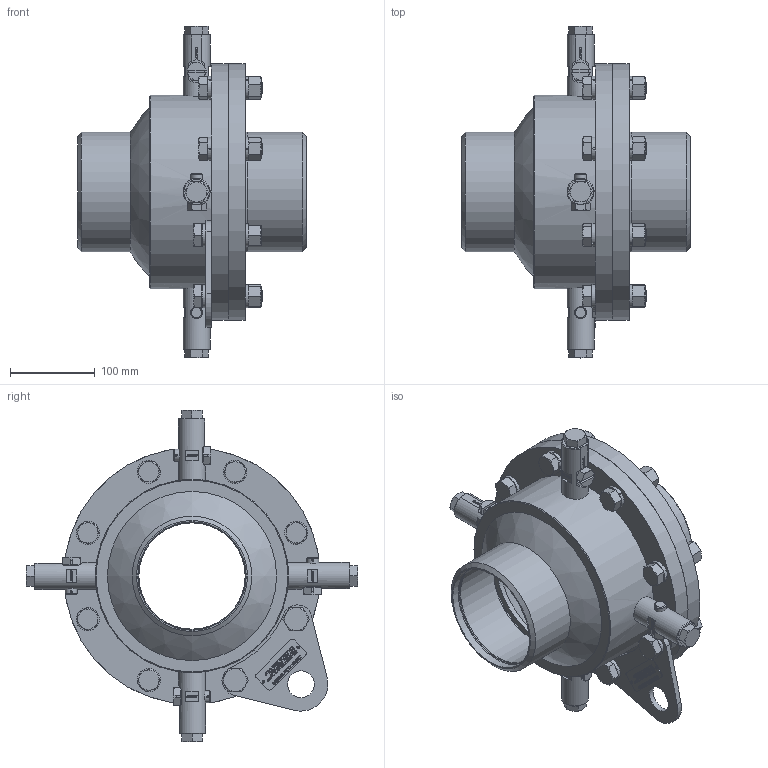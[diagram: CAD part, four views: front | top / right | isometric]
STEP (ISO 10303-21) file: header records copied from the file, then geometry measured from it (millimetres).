
FILE_DESCRIPTION(/* description */ (''),/* implementation_level */ '2;1');
FILE_NAME(/* name */ 'C:\001_Work\Designs\BALL JOINT\5 in Ball Joint Assem(Round PP).stp',/* time_stamp */ '2015-02-23T11:00:17-05:00',/* author */ ('mleuck'),/* organization */ (''),/* preprocessor_version */ 'ST-DEVELOPER v15.2',/* originating_system */ 'Autodesk Inventor 2014',/* authorisation */ '');
FILE_SCHEMA (('AUTOMOTIVE_DESIGN { 1 0 10303 214 3 1 1 }'));
Products named in the file (18): (5 inch) Restraining Flange; (5 inch) Restraining Ring; (5 inch) Hard Packing; (5 inch) Soft Packing; (5 inch) Body; (5 inch) Inside Ball; Plug-ROUND(long)-8-1-14; M14x1.5x35Long(FineThread)-shutoffvalve-(8-1-14); M16x2x30 Long-PackingBolt; IFI 512-S - 2.514; Plug Assem(NewRound)(long)(8-1-14); ANSI B 18.2.4.1 M - M16 x 2Style 1; ASME B18.21.1 - 5_8(2); ANSI B18.2.3.5M - M16 x 2 x 65; 5in LIFTING LUG; 4inch- decal; ANSI B18.2.3.3M - M16x2 x 70; 5 in Ball Joint Assem(Round PP)
Bounding box: 269.88 x 392.59 x 392.59 mm (x, y, z)
Volume: 4374306 mm3; surface area: 994132 mm2
Topology: 58 solids, 58 shells, 2669 faces, 6804 edges, 4466 vertices
Faces by surface type: plane 1608, bspline 624, cone 265, cylinder 160, torus 12
Full cylindrical faces by diameter (mm): 2.5 x4, 2.642 x2, 3 x2, 6 x8, 11.75 x4, 11.836 x4, 13.835 x8, 13.843 x4, 14 x4, 15 x4, 16 x12, 18 x18, 25.3 x2, 31.75 x1, 32 x8, 125.743 x1, 126.302 x1, 128.181 x2, 139.7 x1, 141.287 x2, 174.307 x1, 184.15 x1, 209.55 x7, 228.6 x1, 303.212 x2
Entity records: 52698 total; most frequent: CARTESIAN_POINT 15651, ORIENTED_EDGE 8072, DIRECTION 5536, EDGE_CURVE 4036, LINE 2784, VECTOR 2784, VERTEX_POINT 2727, EDGE_LOOP 1871
